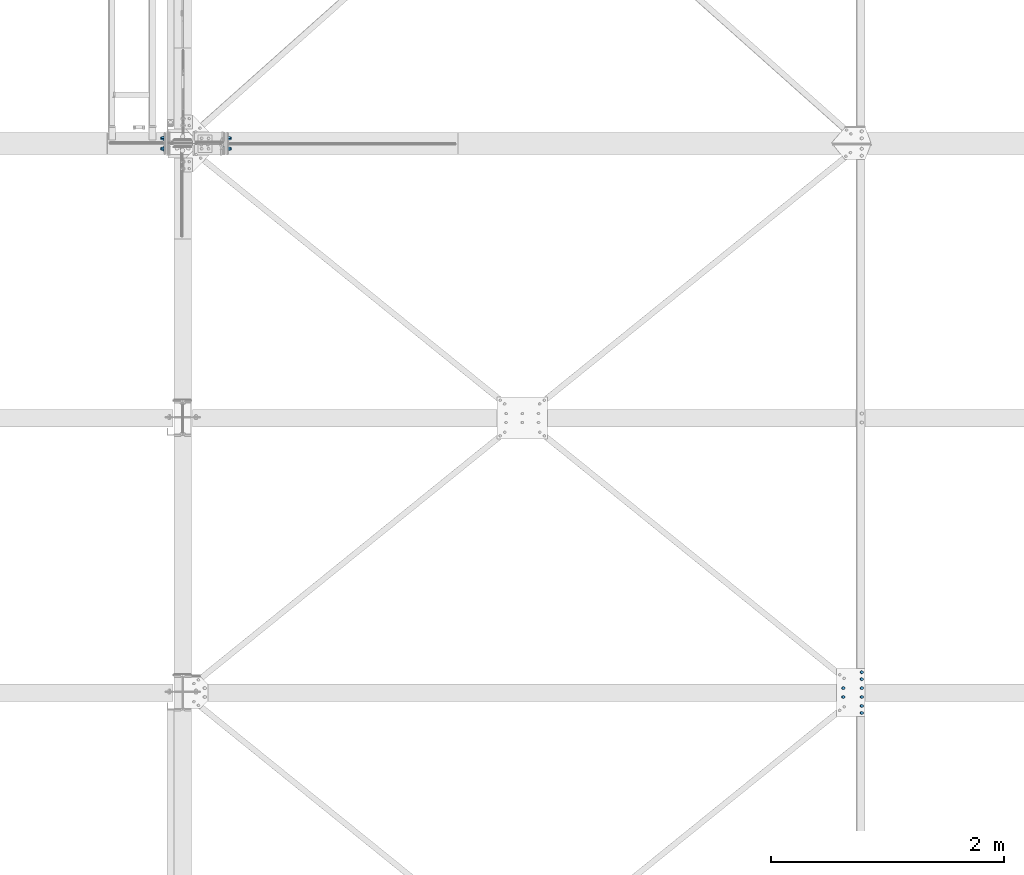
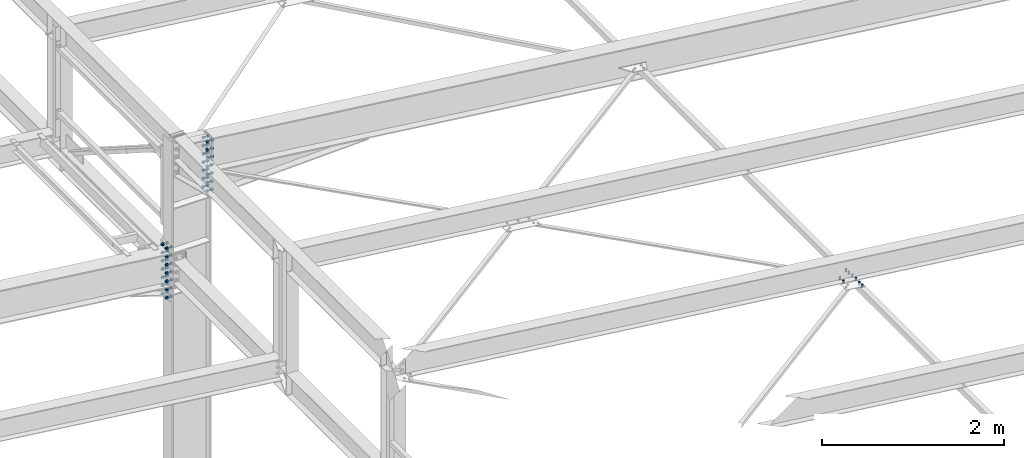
# One storey, part 136 of 3134: 5 mechanical fasteners, 4 elements without a shape of their own.
"""IFC2X3 building model written with IfcOpenShell, lengths in millimetres."""

import ifcopenshell
import ifcopenshell.guid

model = None  # the IFC model being written
_history = None  # IfcOwnerHistory: only IFC2X3 demands one
_inside = {}  # id of a spatial element -> (the spatial element, [elements in it])
_under = {}  # id of a project, library or spatial element -> (it, [spatial elements below it])
_declared = {}  # id of a project -> (the project, [libraries it declares])
_typed = {}  # id of a type object -> (the type object, [elements of that type])
_made_of = {}  # id of a material, layer set ... -> (it, [elements and type objects made of it])


def new_model(schema):
    """Start an empty IFC model of exactly this schema.

    Asked for "IFC4X3", IfcOpenShell would pick the latest addendum, in which some entities
    have other attributes; the version numbers below select the first issue.
    IFC2X3 requires an IfcOwnerHistory on every rooted entity: one is made here for all.
    """
    global model, _history
    if schema == "IFC4X3":
        model = ifcopenshell.file(schema_version=(4, 3, 0, 0))
    else:
        model = ifcopenshell.file(schema=schema)
    _inside.clear()
    _under.clear()
    _declared.clear()
    _typed.clear()
    _made_of.clear()
    _history = None
    if model.schema == "IFC2X3":
        org = make("IfcOrganization", Name="unknown")
        user = make(
            "IfcPersonAndOrganization",
            ThePerson=make("IfcPerson", FamilyName="unknown"),
            TheOrganization=org,
        )
        app = make(
            "IfcApplication",
            ApplicationDeveloper=org,
            Version="unknown",
            ApplicationFullName="unknown",
            ApplicationIdentifier="unknown",
        )
        _history = make(
            "IfcOwnerHistory",
            OwningUser=user,
            OwningApplication=app,
            ChangeAction="ADDED",
            CreationDate=0,
        )
    return model


def make(cls, **values):
    """One entity of the class cls with the attributes given. An attribute that is None is left unset."""
    return model.create_entity(
        cls, **{name: value for name, value in values.items() if value is not None}
    )


def rooted(cls, **values):
    """An entity with a GlobalId (a new one), such as an element, a storey or a relation."""
    return make(cls, GlobalId=ifcopenshell.guid.new(), OwnerHistory=_history, **values)


def si_unit(unit_type, name, prefix=None):
    """IfcSIUnit, for example si_unit("LENGTHUNIT", "METRE", prefix="MILLI")."""
    return make("IfcSIUnit", UnitType=unit_type, Prefix=prefix, Name=name)


def assignment(units):
    """IfcUnitAssignment: the units of a project."""
    return None if units is None else make("IfcUnitAssignment", Units=units)


def point(xyz):
    """IfcCartesianPoint."""
    return None if xyz is None else make("IfcCartesianPoint", Coordinates=xyz)


def direction(xyz):
    """IfcDirection."""
    return None if xyz is None else make("IfcDirection", DirectionRatios=xyz)


def frame(location, z_axis=None, x_axis=None):
    """IfcAxis2Placement3D, a coordinate frame: its origin and axes. An axis left out is left unset."""
    return make(
        "IfcAxis2Placement3D",
        Location=point(location),
        Axis=direction(z_axis),
        RefDirection=direction(x_axis),
    )


def origin_with_axes():
    """The frame at (0, 0, 0) with the z axis (0, 0, 1) and the x axis (1, 0, 0) written out."""
    return frame((0.0, 0.0, 0.0), z_axis=(0.0, 0.0, 1.0), x_axis=(1.0, 0.0, 0.0))


def place(relative_to, where):
    """IfcLocalPlacement: puts the frame where relative to a parent placement (None: the world)."""
    return make(
        "IfcLocalPlacement", PlacementRelTo=relative_to, RelativePlacement=where
    )


def context(
    kind, dimensions, precision=None, world=None, true_north=None, identifier=None
):
    """IfcGeometricRepresentationContext, for example the 3D "Model" context."""
    return make(
        "IfcGeometricRepresentationContext",
        ContextIdentifier=identifier,
        ContextType=kind,
        CoordinateSpaceDimension=dimensions,
        Precision=precision,
        WorldCoordinateSystem=world,
        TrueNorth=true_north,
    )


def subcontext(parent, identifier, kind, view, scale=None):
    """IfcGeometricRepresentationSubContext, for example "Body" below "Model"."""
    return make(
        "IfcGeometricRepresentationSubContext",
        ContextIdentifier=identifier,
        ContextType=kind,
        ParentContext=parent,
        TargetScale=scale,
        TargetView=view,
    )


def project(units=None, contexts=None):
    """IfcProject with its units and contexts."""
    return rooted(
        "IfcProject",
        Name="project",
        RepresentationContexts=contexts,
        UnitsInContext=assignment(units),
    )


def spatial(cls, under=None, at=None, **own):
    """A site, building, storey or space (cls), placed at a placement, below another one or the project."""
    s = rooted(cls, ObjectPlacement=at, **own)
    if under is not None:
        _under.setdefault(under.id(), (under, []))[1].append(s)
    return s


def faces_of(points, faces, orient=None, outer=None):
    """IfcFace entities. A face is a list of loops; a loop is a list of indices into points, from 0.

    orient and outer hold one flag for each loop. By default every Orientation is true, the
    first loop of a face is its IfcFaceOuterBound and the others are IfcFaceBound.
    """
    made = []
    for i, loops in enumerate(faces):
        bounds = []
        for j, loop in enumerate(loops):
            is_outer = j == 0 if outer is None else outer[i][j]
            bounds.append(
                make(
                    "IfcFaceOuterBound" if is_outer else "IfcFaceBound",
                    Bound=make("IfcPolyLoop", Polygon=[points[k] for k in loop]),
                    Orientation=True if orient is None else orient[i][j],
                )
            )
        made.append(make("IfcFace", Bounds=bounds))
    return made


def faceted_brep(points, faces, orient=None, outer=None, voids=None):
    """IfcFacetedBrep: a solid bounded by flat faces; with voids (closed shells), ...WithVoids."""
    shared = [point(p) for p in points]
    hull = make("IfcClosedShell", CfsFaces=faces_of(shared, faces, orient, outer))
    if voids is None:
        return make("IfcFacetedBrep", Outer=hull)
    return make(
        "IfcFacetedBrepWithVoids",
        Outer=hull,
        Voids=[
            make(cls, CfsFaces=faces_of(shared, fs, o, b)) for cls, fs, o, b in voids
        ],
    )


def shape(context_of_items, identifier, shape_type, items):
    """IfcShapeRepresentation: the items that make up one representation, for example the "Body"."""
    return make(
        "IfcShapeRepresentation",
        ContextOfItems=context_of_items,
        RepresentationIdentifier=identifier,
        RepresentationType=shape_type,
        Items=items,
    )


def source(mapping_origin, context_of_items, identifier, shape_type, items):
    """IfcRepresentationMap: a shape defined once, which mapped items show again and again."""
    return make(
        "IfcRepresentationMap",
        MappingOrigin=mapping_origin,
        MappedRepresentation=shape(context_of_items, identifier, shape_type, items),
    )


def transform(
    local_origin,
    x_axis=None,
    y_axis=None,
    z_axis=None,
    scale=None,
    scale2=None,
    scale3=None,
    uniform=True,
):
    """IfcCartesianTransformationOperator3D, or its non-uniform kind. x_axis, y_axis, z_axis: its Axis1, 2, 3."""
    if uniform:
        return make(
            "IfcCartesianTransformationOperator3D",
            Axis1=direction(x_axis),
            Axis2=direction(y_axis),
            LocalOrigin=point(local_origin),
            Scale=scale,
            Axis3=direction(z_axis),
        )
    return make(
        "IfcCartesianTransformationOperator3DnonUniform",
        Axis1=direction(x_axis),
        Axis2=direction(y_axis),
        LocalOrigin=point(local_origin),
        Scale=scale,
        Axis3=direction(z_axis),
        Scale2=scale2,
        Scale3=scale3,
    )


def mapped(mapping_source, mapping_target):
    """IfcMappedItem: shows the shape of a source again, moved by a transform."""
    return make(
        "IfcMappedItem", MappingSource=mapping_source, MappingTarget=mapping_target
    )


def material(Name=None, Category=None):
    """IfcMaterial."""
    return make("IfcMaterial", Name=Name, Category=Category)


def made_of(thing, what):
    """Note that an element or type object is made of a material, layer set ...; save() writes the relation."""
    if what is not None:
        _made_of.setdefault(what.id(), (what, []))[1].append(thing)
    return thing


def type_object(cls, material=None, **own):
    """A type object (cls), such as IfcWallType, which elements share."""
    return made_of(rooted(cls, **own), material)


def element(
    cls,
    number,
    at=None,
    inside=None,
    cuts=None,
    type_object=None,
    material=None,
    context=None,
    identifier="Body",
    shape_type=None,
    held_by="IfcProductDefinitionShape",
    body=None,
    shapes=None,
    **own,
):
    """One element of the class cls, such as IfcWall. Its Tag is "e" and its number.

    at: its placement. inside: the storey or other place that contains it. cuts: it is an
    opening in that element (IfcRelVoidsElement). A single representation is given by context,
    identifier, shape_type and body (its items); several are given by shapes. held_by: the class
    of the entity that holds the representations. save() writes the other relations.
    """
    e = rooted(cls, Tag="e%d" % number, ObjectPlacement=at, **own)
    if body is not None:
        shapes = [shape(context, identifier, shape_type, body)]
    if shapes is not None:
        e.Representation = make(held_by, Representations=shapes)
    if inside is not None:
        _inside.setdefault(inside.id(), (inside, []))[1].append(e)
    if cuts is not None:
        rooted(
            "IfcRelVoidsElement", RelatingBuildingElement=cuts, RelatedOpeningElement=e
        )
    if type_object is not None:
        _typed.setdefault(type_object.id(), (type_object, []))[1].append(e)
    return made_of(e, material)


def aggregate(whole, parts):
    """IfcRelAggregates: a whole, such as a stair, and the parts it consists of."""
    return rooted("IfcRelAggregates", RelatingObject=whole, RelatedObjects=parts)


def save(model, path):
    """Write the relations noted so far, then the file.

    IfcRelAggregates (storeys below a building ...), IfcRelContainedInSpatialStructure (elements
    in a storey), IfcRelDefinesByType, IfcRelAssociatesMaterial and IfcRelDeclares: one each for
    every whole, place, type object, material and project.
    """
    for whole, parts in _under.values():
        aggregate(whole, parts)
    for where, things in _inside.values():
        rooted(
            "IfcRelContainedInSpatialStructure",
            RelatedElements=things,
            RelatingStructure=where,
        )
    for kind, things in _typed.values():
        rooted("IfcRelDefinesByType", RelatedObjects=things, RelatingType=kind)
    for what, things in _made_of.values():
        rooted("IfcRelAssociatesMaterial", RelatedObjects=things, RelatingMaterial=what)
    for by, libraries in _declared.values():
        rooted("IfcRelDeclares", RelatingContext=by, RelatedDefinitions=libraries)
    model.write(path)


model = new_model("IFC2X3")

# Units and contexts
model_context = context("Model", 3, precision=1e-05, world=origin_with_axes())
body_context = subcontext(model_context, "Body", "Model", "MODEL_VIEW")
ifc_project = project(units=[si_unit("LENGTHUNIT", "METRE", prefix="MILLI"), si_unit("AREAUNIT", "SQUARE_METRE"), si_unit("VOLUMEUNIT", "CUBIC_METRE"), si_unit("MASSUNIT", "GRAM", prefix="KILO"), si_unit("TIMEUNIT", "SECOND"), si_unit("PLANEANGLEUNIT", "RADIAN"), si_unit("SOLIDANGLEUNIT", "STERADIAN"), si_unit("THERMODYNAMICTEMPERATUREUNIT", "DEGREE_CELSIUS"), si_unit("LUMINOUSINTENSITYUNIT", "LUMEN")], contexts=[model_context])

# Site, building, storey
site_placement = place(None, origin_with_axes())
site = spatial("IfcSite", under=ifc_project, at=site_placement, CompositionType="ELEMENT")
building_placement = place(site_placement, origin_with_axes())
building = spatial("IfcBuilding", under=site, at=building_placement, Name="Undefined", CompositionType="ELEMENT")
storey_placement = place(building_placement, origin_with_axes())
storey = spatial("IfcBuildingStorey", under=building, at=storey_placement, Name="Undefined", CompositionType="ELEMENT", Elevation=0.0)

# Assembly, mechanical fastener
assembly_1_placement = place(storey_placement, origin_with_axes())
assembly_1 = element("IfcElementAssembly", 1, at=assembly_1_placement, inside=storey, Name="IPE450", AssemblyPlace="NOTDEFINED", PredefinedType="RIGID_FRAME")
ifc_material_1 = material(Name="HR10.9")
mechanical_fastener_type = type_object("IfcMechanicalFastenerType", Name="Bolt assembly")
shared_shape_1 = source(origin_with_axes(), body_context, "Body", "Brep", [
    faceted_brep([(18.475208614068, -33.599999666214, 0.0), (9.23760430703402, -33.599999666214, 16.0), (-9.23760430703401, -33.599999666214, 16.0), (-18.475208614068, -33.599999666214, 2.2625605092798e-15), (-9.23760430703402, -33.599999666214, -16.0), (9.237604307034, -33.599999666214, -16.0), (9.237604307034, -19.7000000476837, -16.0), (-9.23760430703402, -19.7000000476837, -16.0), (-18.475208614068, -19.7000000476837, 2.2625605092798e-15), (-9.23760430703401, -19.7000000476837, 16.0), (9.23760430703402, -19.7000000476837, 16.0), (18.475208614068, -19.7000000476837, 0.0), (10.0, -19.7000000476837, 0.0), (8.66025403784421, -19.7000000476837, 5.0000000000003), (4.9999999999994, -19.7000000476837, 8.66025403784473), (-1.03633598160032e-12, -19.7000000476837, 10.0), (-5.00000000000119, -19.7000000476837, 8.6602540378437), (-8.66025403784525, -19.7000000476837, 4.99999999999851), (-10.0, -19.7000000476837, -2.07267196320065e-12), (-8.66025403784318, -19.7000000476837, -5.00000000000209), (-4.99999999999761, -19.7000000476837, -8.66025403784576), (3.09790571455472e-12, -19.7000000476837, -10.0), (5.00000000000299, -19.7000000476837, -8.66025403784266), (8.66025403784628, -19.7000000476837, -4.99999999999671), (8.66025403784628, 55.2999999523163, -4.99999999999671), (5.00000000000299, 55.2999999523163, -8.66025403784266), (3.09790571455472e-12, 55.2999999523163, -10.0), (-4.99999999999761, 55.2999999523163, -8.66025403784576), (-8.66025403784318, 55.2999999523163, -5.00000000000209), (-10.0, 55.2999999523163, -2.07267196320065e-12), (-8.66025403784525, 55.2999999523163, 4.99999999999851), (-5.00000000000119, 55.2999999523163, 8.6602540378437), (-1.03633598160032e-12, 55.2999999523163, 10.0), (4.9999999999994, 55.2999999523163, 8.66025403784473), (8.66025403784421, 55.2999999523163, 5.0000000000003), (10.0, 55.2999999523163, 0.0), (22.0, -19.7000000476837, 0.0), (19.0525588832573, -19.7000000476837, 11.0000000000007), (10.9999999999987, -19.7000000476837, 19.0525588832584), (-2.27993915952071e-12, -19.7000000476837, 22.0), (-11.0000000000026, -19.7000000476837, 19.0525588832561), (-19.0525588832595, -19.7000000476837, 10.9999999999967), (-22.0, -19.7000000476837, -4.55987831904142e-12), (-19.052558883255, -19.7000000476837, -11.0000000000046), (-10.9999999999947, -19.7000000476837, -19.0525588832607), (6.81539257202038e-12, -19.7000000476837, -22.0), (11.0000000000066, -19.7000000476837, -19.0525588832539), (19.0525588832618, -19.7000000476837, -10.9999999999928), (19.0525588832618, -16.0, -10.9999999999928), (11.0000000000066, -16.0, -19.0525588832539), (6.81539257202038e-12, -16.0, -22.0), (-10.9999999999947, -16.0, -19.0525588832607), (-19.052558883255, -16.0, -11.0000000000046), (-22.0, -16.0, -4.55987831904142e-12), (-19.0525588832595, -16.0, 10.9999999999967), (-11.0000000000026, -16.0, 19.0525588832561), (-2.27993915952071e-12, -16.0, 22.0), (10.9999999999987, -16.0, 19.0525588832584), (19.0525588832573, -16.0, 11.0000000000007), (22.0, -16.0, 0.0), (22.0, 25.0, 0.0), (19.0525588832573, 25.0, 11.0000000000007), (10.9999999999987, 25.0, 19.0525588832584), (-2.27993915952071e-12, 25.0, 22.0), (-11.0000000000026, 25.0, 19.0525588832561), (-19.0525588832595, 25.0, 10.9999999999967), (-22.0, 25.0, -4.55987831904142e-12), (-19.052558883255, 25.0, -11.0000000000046), (-10.9999999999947, 25.0, -19.0525588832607), (6.81539257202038e-12, 25.0, -22.0), (11.0000000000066, 25.0, -19.0525588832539), (19.0525588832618, 25.0, -10.9999999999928), (19.0525588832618, 28.7000000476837, -10.9999999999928), (11.0000000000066, 28.7000000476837, -19.0525588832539), (6.81539257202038e-12, 28.7000000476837, -22.0), (-10.9999999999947, 28.7000000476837, -19.0525588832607), (-19.052558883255, 28.7000000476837, -11.0000000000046), (-22.0, 28.7000000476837, -4.55987831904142e-12), (-19.0525588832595, 28.7000000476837, 10.9999999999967), (-11.0000000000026, 28.7000000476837, 19.0525588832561), (-2.27993915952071e-12, 28.7000000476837, 22.0), (10.9999999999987, 28.7000000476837, 19.0525588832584), (19.0525588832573, 28.7000000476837, 11.0000000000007), (22.0, 28.7000000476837, 0.0), (18.475208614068, 28.7000000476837, 0.0), (9.23760430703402, 28.7000000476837, 16.0), (-9.23760430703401, 28.7000000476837, 16.0), (-18.475208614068, 28.7000000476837, 2.2625605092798e-15), (-9.23760430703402, 28.7000000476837, -16.0), (9.237604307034, 28.7000000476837, -16.0), (9.237604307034, 47.2499992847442, -16.0), (-9.23760430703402, 47.2499992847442, -16.0), (-18.475208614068, 47.2499992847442, 2.2625605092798e-15), (-9.23760430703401, 47.2499992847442, 16.0), (9.23760430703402, 47.2499992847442, 16.0), (18.475208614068, 47.2499992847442, 0.0)], [[[0, 1, 2, 3, 4, 5]], [[6, 7, 8, 9, 10, 11]], [[0, 11, 10, 1]], [[1, 10, 9, 2]], [[2, 9, 8, 3]], [[3, 8, 7, 4]], [[4, 7, 6, 5]], [[5, 6, 11, 0]], [[12, 13, 14, 15, 16, 17, 18, 19, 20, 21, 22, 23]], [[24, 25, 26, 27, 28, 29, 30, 31, 32, 33, 34, 35]], [[12, 35, 34, 13]], [[13, 34, 33, 14]], [[14, 33, 32, 15]], [[15, 32, 31, 16]], [[16, 31, 30, 17]], [[17, 30, 29, 18]], [[18, 29, 28, 19]], [[19, 28, 27, 20]], [[20, 27, 26, 21]], [[21, 26, 25, 22]], [[22, 25, 24, 23]], [[23, 24, 35, 12]], [[36, 37, 38, 39, 40, 41, 42, 43, 44, 45, 46, 47]], [[48, 49, 50, 51, 52, 53, 54, 55, 56, 57, 58, 59]], [[36, 59, 58, 37]], [[37, 58, 57, 38]], [[38, 57, 56, 39]], [[39, 56, 55, 40]], [[40, 55, 54, 41]], [[41, 54, 53, 42]], [[42, 53, 52, 43]], [[43, 52, 51, 44]], [[44, 51, 50, 45]], [[45, 50, 49, 46]], [[46, 49, 48, 47]], [[47, 48, 59, 36]], [[60, 61, 62, 63, 64, 65, 66, 67, 68, 69, 70, 71]], [[72, 73, 74, 75, 76, 77, 78, 79, 80, 81, 82, 83]], [[60, 83, 82, 61]], [[61, 82, 81, 62]], [[62, 81, 80, 63]], [[63, 80, 79, 64]], [[64, 79, 78, 65]], [[65, 78, 77, 66]], [[66, 77, 76, 67]], [[67, 76, 75, 68]], [[68, 75, 74, 69]], [[69, 74, 73, 70]], [[70, 73, 72, 71]], [[71, 72, 83, 60]], [[84, 85, 86, 87, 88, 89]], [[90, 91, 92, 93, 94, 95]], [[84, 95, 94, 85]], [[85, 94, 93, 86]], [[86, 93, 92, 87]], [[87, 92, 91, 88]], [[88, 91, 90, 89]], [[89, 90, 95, 84]]]),
    faceted_brep([(11.0, -15.9, 0.0), (9.52627944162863, -15.9, 5.50000000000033), (5.49999999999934, -15.9, 9.5262794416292), (-1.13996957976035e-12, -15.9, 11.0), (-5.50000000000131, -15.9, 9.52627944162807), (-9.52627944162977, -15.9, 5.49999999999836), (-11.0, -15.9, -2.27993915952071e-12), (-9.5262794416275, -15.9, -5.5000000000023), (-5.49999999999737, -15.9, -9.52627944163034), (3.40769628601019e-12, -15.9, -11.0), (5.50000000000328, -15.9, -9.52627944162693), (9.52627944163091, -15.9, -5.49999999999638), (9.52627944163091, 0.0999999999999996, -5.49999999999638), (5.50000000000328, 0.0999999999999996, -9.52627944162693), (3.40769628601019e-12, 0.0999999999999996, -11.0), (-5.49999999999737, 0.0999999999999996, -9.52627944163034), (-9.5262794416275, 0.0999999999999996, -5.5000000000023), (-11.0, 0.0999999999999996, -2.27993915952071e-12), (-9.52627944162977, 0.0999999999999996, 5.49999999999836), (-5.50000000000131, 0.0999999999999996, 9.52627944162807), (-1.13996957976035e-12, 0.0999999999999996, 11.0), (5.49999999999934, 0.0999999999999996, 9.5262794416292), (9.52627944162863, 0.0999999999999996, 5.50000000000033), (11.0, 0.0999999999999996, 0.0), (11.0, -0.1, 0.0), (9.52627944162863, -0.1, 5.50000000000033), (5.49999999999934, -0.1, 9.5262794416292), (-1.13996957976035e-12, -0.1, 11.0), (-5.50000000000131, -0.1, 9.52627944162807), (-9.52627944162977, -0.1, 5.49999999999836), (-11.0, -0.1, -2.27993915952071e-12), (-9.5262794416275, -0.1, -5.5000000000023), (-5.49999999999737, -0.1, -9.52627944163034), (3.40769628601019e-12, -0.1, -11.0), (5.50000000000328, -0.1, -9.52627944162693), (9.52627944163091, -0.1, -5.49999999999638), (9.52627944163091, 25.0, -5.49999999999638), (5.50000000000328, 25.0, -9.52627944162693), (3.40769628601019e-12, 25.0, -11.0), (-5.49999999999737, 25.0, -9.52627944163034), (-9.5262794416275, 25.0, -5.5000000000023), (-11.0, 25.0, -2.27993915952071e-12), (-9.52627944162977, 25.0, 5.49999999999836), (-5.50000000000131, 25.0, 9.52627944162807), (-1.13996957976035e-12, 25.0, 11.0), (5.49999999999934, 25.0, 9.5262794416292), (9.52627944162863, 25.0, 5.50000000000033), (11.0, 25.0, 0.0)], [[[0, 1, 2, 3, 4, 5, 6, 7, 8, 9, 10, 11]], [[12, 13, 14, 15, 16, 17, 18, 19, 20, 21, 22, 23]], [[0, 23, 22, 1]], [[1, 22, 21, 2]], [[2, 21, 20, 3]], [[3, 20, 19, 4]], [[4, 19, 18, 5]], [[5, 18, 17, 6]], [[6, 17, 16, 7]], [[7, 16, 15, 8]], [[8, 15, 14, 9]], [[9, 14, 13, 10]], [[10, 13, 12, 11]], [[11, 12, 23, 0]], [[24, 25, 26, 27, 28, 29, 30, 31, 32, 33, 34, 35]], [[36, 37, 38, 39, 40, 41, 42, 43, 44, 45, 46, 47]], [[24, 47, 46, 25]], [[25, 46, 45, 26]], [[26, 45, 44, 27]], [[27, 44, 43, 28]], [[28, 43, 42, 29]], [[29, 42, 41, 30]], [[30, 41, 40, 31]], [[31, 40, 39, 32]], [[32, 39, 38, 33]], [[33, 38, 37, 34]], [[34, 37, 36, 35]], [[35, 36, 47, 24]]]),
])
mechanical_fastener_1_placement = place(assembly_1_placement, frame((32890.0, 19450.0, 5711.36541521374), z_axis=(0.0, -1.0, 0.0), x_axis=(0.0, 0.0, -1.0)))
mechanical_fastener_1 = element("IfcMechanicalFastener", 2, at=mechanical_fastener_1_placement, type_object=mechanical_fastener_type, material=ifc_material_1, Name="Bolt assembly", NominalDiameter=20.0, NominalLength=75.0, context=body_context, shape_type="MappedRepresentation", body=[
    mapped(shared_shape_1, transform((0.0, 0.0, -45.0))),
    mapped(shared_shape_1, transform((0.0, 0.0, 45.0))),
    mapped(shared_shape_1, transform((110.0, 0.0, -45.0))),
    mapped(shared_shape_1, transform((110.0, 0.0, 45.0))),
    mapped(shared_shape_1, transform((220.0, 0.0, -45.0))),
    mapped(shared_shape_1, transform((220.0, 0.0, 45.0))),
    mapped(shared_shape_1, transform((330.0, 0.0, -45.0))),
    mapped(shared_shape_1, transform((330.0, 0.0, 45.0))),
    mapped(shared_shape_1, transform((440.0, 0.0, -45.0))),
    mapped(shared_shape_1, transform((440.0, 0.0, 45.0))),
    mapped(shared_shape_1, transform((550.0, 0.0, -45.0))),
    mapped(shared_shape_1, transform((550.0, 0.0, 45.0))),
    mapped(shared_shape_1, transform((660.0, 0.0, -45.0))),
    mapped(shared_shape_1, transform((660.0, 0.0, 45.0))),
])
aggregate(assembly_1, [mechanical_fastener_1])

assembly_2_placement = place(storey_placement, origin_with_axes())
assembly_2 = element("IfcElementAssembly", 3, at=assembly_2_placement, inside=storey, Name="IPE450", AssemblyPlace="NOTDEFINED", PredefinedType="RIGID_FRAME")
mechanical_fastener_2_placement = place(assembly_2_placement, frame((32390.0, 19450.0, 4461.54211857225), z_axis=(0.0, 1.0, 0.0), x_axis=(0.0, 0.0, -1.0)))
mechanical_fastener_2 = element("IfcMechanicalFastener", 4, at=mechanical_fastener_2_placement, type_object=mechanical_fastener_type, material=ifc_material_1, Name="Bolt assembly", NominalDiameter=20.0, NominalLength=75.0, context=body_context, shape_type="MappedRepresentation", body=[
    mapped(shared_shape_1, transform((0.0, 0.0, -45.0))),
    mapped(shared_shape_1, transform((0.0, 0.0, 45.0))),
    mapped(shared_shape_1, transform((110.0, 0.0, -45.0))),
    mapped(shared_shape_1, transform((110.0, 0.0, 45.0))),
    mapped(shared_shape_1, transform((220.0, 0.0, -45.0))),
    mapped(shared_shape_1, transform((220.0, 0.0, 45.0))),
    mapped(shared_shape_1, transform((330.0, 0.0, -45.0))),
    mapped(shared_shape_1, transform((330.0, 0.0, 45.0))),
    mapped(shared_shape_1, transform((440.0, 0.0, -45.0))),
    mapped(shared_shape_1, transform((440.0, 0.0, 45.0))),
    mapped(shared_shape_1, transform((550.0, 0.0, -45.0))),
    mapped(shared_shape_1, transform((550.0, 0.0, 45.0))),
    mapped(shared_shape_1, transform((660.0, 0.0, -45.0))),
    mapped(shared_shape_1, transform((660.0, 0.0, 45.0))),
])
aggregate(assembly_2, [mechanical_fastener_2])

assembly_3_placement = place(storey_placement, origin_with_axes())
assembly_3 = element("IfcElementAssembly", 5, at=assembly_3_placement, inside=storey, Name="300", AssemblyPlace="NOTDEFINED", PredefinedType="RIGID_FRAME")
ifc_material_2 = material(Name="8.8")
shared_shape_2 = source(origin_with_axes(), body_context, "Body", "Brep", [
    faceted_brep([(13.856406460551, -19.199990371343, 0.0), (6.92820323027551, -19.199990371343, 12.0), (-6.92820323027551, -19.199990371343, 12.0), (-13.856406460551, -19.199990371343, 1.69692038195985e-15), (-6.92820323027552, -19.199990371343, -12.0), (6.9282032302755, -19.199990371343, -12.0), (6.9282032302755, -9.19999037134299, -12.0), (-6.92820323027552, -9.19999037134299, -12.0), (-13.856406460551, -9.19999037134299, 1.69692038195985e-15), (-6.92820323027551, -9.19999037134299, 12.0), (6.92820323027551, -9.19999037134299, 12.0), (13.856406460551, -9.19999037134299, 0.0), (8.0, -9.19999037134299, 0.0), (6.92820323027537, -9.19999037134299, 4.00000000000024), (3.99999999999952, -9.19999037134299, 6.92820323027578), (-8.29068785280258e-13, -9.19999037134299, 8.0), (-4.00000000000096, -9.19999037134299, 6.92820323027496), (-6.9282032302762, -9.19999037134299, 3.99999999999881), (-8.0, -9.19999037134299, -1.65813757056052e-12), (-6.92820323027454, -9.19999037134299, -4.00000000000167), (-3.99999999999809, -9.19999037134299, -6.92820323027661), (2.47832457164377e-12, -9.19999037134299, -8.0), (4.00000000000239, -9.19999037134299, -6.92820323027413), (6.92820323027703, -9.19999037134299, -3.99999999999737), (6.92820323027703, 25.800009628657, -3.99999999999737), (4.00000000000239, 25.800009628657, -6.92820323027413), (2.47832457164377e-12, 25.800009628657, -8.0), (-3.99999999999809, 25.800009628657, -6.92820323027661), (-6.92820323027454, 25.800009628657, -4.00000000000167), (-8.0, 25.800009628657, -1.65813757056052e-12), (-6.9282032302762, 25.800009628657, 3.99999999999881), (-4.00000000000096, 25.800009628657, 6.92820323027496), (-8.29068785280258e-13, 25.800009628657, 8.0), (3.99999999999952, 25.800009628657, 6.92820323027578), (6.92820323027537, 25.800009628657, 4.00000000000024), (8.0, 25.800009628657, 0.0), (13.856406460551, 8.00000637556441, 0.0), (6.92820323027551, 8.00000637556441, 12.0), (-6.92820323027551, 8.00000637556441, 12.0), (-13.856406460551, 8.00000637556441, 1.69692038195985e-15), (-6.92820323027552, 8.00000637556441, -12.0), (6.9282032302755, 8.00000637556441, -12.0), (6.9282032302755, 21.0000063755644, -12.0), (-6.92820323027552, 21.0000063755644, -12.0), (-13.856406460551, 21.0000063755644, 1.69692038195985e-15), (-6.92820323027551, 21.0000063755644, 12.0), (6.92820323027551, 21.0000063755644, 12.0), (13.856406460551, 21.0000063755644, 0.0)], [[[0, 1, 2, 3, 4, 5]], [[6, 7, 8, 9, 10, 11]], [[0, 11, 10, 1]], [[1, 10, 9, 2]], [[2, 9, 8, 3]], [[3, 8, 7, 4]], [[4, 7, 6, 5]], [[5, 6, 11, 0]], [[12, 13, 14, 15, 16, 17, 18, 19, 20, 21, 22, 23]], [[24, 25, 26, 27, 28, 29, 30, 31, 32, 33, 34, 35]], [[12, 35, 34, 13]], [[13, 34, 33, 14]], [[14, 33, 32, 15]], [[15, 32, 31, 16]], [[16, 31, 30, 17]], [[17, 30, 29, 18]], [[18, 29, 28, 19]], [[19, 28, 27, 20]], [[20, 27, 26, 21]], [[21, 26, 25, 22]], [[22, 25, 24, 23]], [[23, 24, 35, 12]], [[36, 37, 38, 39, 40, 41]], [[42, 43, 44, 45, 46, 47]], [[36, 47, 46, 37]], [[37, 46, 45, 38]], [[38, 45, 44, 39]], [[39, 44, 43, 40]], [[40, 43, 42, 41]], [[41, 42, 47, 36]]]),
    faceted_brep([(9.0, -0.1, 0.0), (7.79422863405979, -0.1, 4.50000000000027), (4.49999999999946, -0.1, 7.79422863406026), (-9.3270238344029e-13, -0.1, 9.0), (-4.50000000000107, -0.1, 7.79422863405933), (-7.79422863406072, -0.1, 4.49999999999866), (-9.0, -0.1, -1.86540476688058e-12), (-7.79422863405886, -0.1, -4.50000000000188), (-4.49999999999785, -0.1, -7.79422863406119), (2.78811514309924e-12, -0.1, -9.0), (4.50000000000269, -0.1, -7.7942286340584), (7.79422863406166, -0.1, -4.49999999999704), (7.79422863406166, 8.00000000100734, -4.49999999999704), (4.50000000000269, 8.00000000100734, -7.7942286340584), (2.78811514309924e-12, 8.00000000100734, -9.0), (-4.49999999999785, 8.00000000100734, -7.79422863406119), (-7.79422863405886, 8.00000000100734, -4.50000000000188), (-9.0, 8.00000000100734, -1.86540476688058e-12), (-7.79422863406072, 8.00000000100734, 4.49999999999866), (-4.50000000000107, 8.00000000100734, 7.79422863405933), (-9.3270238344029e-13, 8.00000000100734, 9.0), (4.49999999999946, 8.00000000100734, 7.79422863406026), (7.79422863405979, 8.00000000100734, 4.50000000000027), (9.0, 8.00000000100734, 0.0), (9.0, -9.09999037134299, 0.0), (7.79422863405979, -9.09999037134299, 4.50000000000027), (4.49999999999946, -9.09999037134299, 7.79422863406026), (-9.3270238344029e-13, -9.09999037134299, 9.0), (-4.50000000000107, -9.09999037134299, 7.79422863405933), (-7.79422863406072, -9.09999037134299, 4.49999999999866), (-9.0, -9.09999037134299, -1.86540476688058e-12), (-7.79422863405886, -9.09999037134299, -4.50000000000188), (-4.49999999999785, -9.09999037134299, -7.79422863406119), (2.78811514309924e-12, -9.09999037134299, -9.0), (4.50000000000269, -9.09999037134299, -7.7942286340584), (7.79422863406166, -9.09999037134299, -4.49999999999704), (7.79422863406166, 0.100000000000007, -4.49999999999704), (4.50000000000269, 0.100000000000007, -7.7942286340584), (2.78811514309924e-12, 0.100000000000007, -9.0), (-4.49999999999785, 0.100000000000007, -7.79422863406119), (-7.79422863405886, 0.100000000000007, -4.50000000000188), (-9.0, 0.100000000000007, -1.86540476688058e-12), (-7.79422863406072, 0.100000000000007, 4.49999999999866), (-4.50000000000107, 0.100000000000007, 7.79422863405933), (-9.3270238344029e-13, 0.100000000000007, 9.0), (4.49999999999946, 0.100000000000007, 7.79422863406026), (7.79422863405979, 0.100000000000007, 4.50000000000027), (9.0, 0.100000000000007, 0.0)], [[[0, 1, 2, 3, 4, 5, 6, 7, 8, 9, 10, 11]], [[12, 13, 14, 15, 16, 17, 18, 19, 20, 21, 22, 23]], [[0, 23, 22, 1]], [[1, 22, 21, 2]], [[2, 21, 20, 3]], [[3, 20, 19, 4]], [[4, 19, 18, 5]], [[5, 18, 17, 6]], [[6, 17, 16, 7]], [[7, 16, 15, 8]], [[8, 15, 14, 9]], [[9, 14, 13, 10]], [[10, 13, 12, 11]], [[11, 12, 23, 0]], [[24, 25, 26, 27, 28, 29, 30, 31, 32, 33, 34, 35]], [[36, 37, 38, 39, 40, 41, 42, 43, 44, 45, 46, 47]], [[24, 47, 46, 25]], [[25, 46, 45, 26]], [[26, 45, 44, 27]], [[27, 44, 43, 28]], [[28, 43, 42, 29]], [[29, 42, 41, 30]], [[30, 41, 40, 31]], [[31, 40, 39, 32]], [[32, 39, 38, 33]], [[33, 38, 37, 34]], [[34, 37, 36, 35]], [[35, 36, 47, 24]]]),
])
mechanical_fastener_3_placement = place(assembly_3_placement, frame((38283.5751064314, 14692.0, 4816.43281405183), z_axis=(-0.992623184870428, 0.0, 0.121240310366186), x_axis=(0.0, 1.0, 0.0)))
mechanical_fastener_3 = element("IfcMechanicalFastener", 6, at=mechanical_fastener_3_placement, type_object=mechanical_fastener_type, material=ifc_material_2, Name="Bolt assembly", NominalDiameter=16.0, NominalLength=35.0, context=body_context, shape_type="MappedRepresentation", body=[
    mapped(shared_shape_2, transform((0.0, -5.32963895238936e-10, -79.9999999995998))),
    mapped(shared_shape_2, transform((76.0, -5.32963895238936e-10, -79.9999999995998))),
    mapped(shared_shape_2, transform((0.0, 5.3114490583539e-10, 79.9999999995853))),
    mapped(shared_shape_2, transform((76.0, 5.3114490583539e-10, 79.9999999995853))),
])
aggregate(assembly_3, [mechanical_fastener_3])

# Assembly, mechanical fasteners
assembly_4_placement = place(storey_placement, origin_with_axes())
assembly_4 = element("IfcElementAssembly", 7, at=assembly_4_placement, inside=storey, Name="PL8", AssemblyPlace="NOTDEFINED", PredefinedType="RIGID_FRAME")
shared_shape_3 = source(origin_with_axes(), body_context, "Body", "Brep", [
    faceted_brep([(13.856406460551, -10.0, 0.0), (6.92820323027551, -10.0, 12.0), (-6.92820323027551, -10.0, 12.0), (-13.856406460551, -10.0, 1.69692038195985e-15), (-6.92820323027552, -10.0, -12.0), (6.9282032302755, -10.0, -12.0), (6.9282032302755, 0.0, -12.0), (-6.92820323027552, 0.0, -12.0), (-13.856406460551, 0.0, 1.69692038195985e-15), (-6.92820323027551, 0.0, 12.0), (6.92820323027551, 0.0, 12.0), (13.856406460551, 0.0, 0.0), (8.0, 0.0, 0.0), (6.92820323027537, 0.0, 4.00000000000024), (3.99999999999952, 0.0, 6.92820323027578), (-8.29068785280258e-13, 0.0, 8.0), (-4.00000000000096, 0.0, 6.92820323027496), (-6.9282032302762, 0.0, 3.99999999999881), (-8.0, 0.0, -1.65813757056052e-12), (-6.92820323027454, 0.0, -4.00000000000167), (-3.99999999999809, 0.0, -6.92820323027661), (2.47832457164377e-12, 0.0, -8.0), (4.00000000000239, 0.0, -6.92820323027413), (6.92820323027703, 0.0, -3.99999999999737), (6.92820323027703, 35.0000000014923, -3.99999999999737), (4.00000000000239, 35.0000000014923, -6.92820323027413), (2.47832457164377e-12, 35.0000000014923, -8.0), (-3.99999999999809, 35.0000000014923, -6.92820323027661), (-6.92820323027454, 35.0000000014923, -4.00000000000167), (-8.0, 35.0000000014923, -1.65813757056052e-12), (-6.9282032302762, 35.0000000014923, 3.99999999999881), (-4.00000000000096, 35.0000000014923, 6.92820323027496), (-8.29068785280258e-13, 35.0000000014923, 8.0), (3.99999999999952, 35.0000000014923, 6.92820323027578), (6.92820323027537, 35.0000000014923, 4.00000000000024), (8.0, 35.0000000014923, 0.0), (13.856406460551, 14.9999995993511, 0.0), (6.92820323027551, 14.9999995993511, 12.0), (-6.92820323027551, 14.9999995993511, 12.0), (-13.856406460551, 14.9999995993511, 1.69692038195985e-15), (-6.92820323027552, 14.9999995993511, -12.0), (6.9282032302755, 14.9999995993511, -12.0), (6.9282032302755, 27.9999995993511, -12.0), (-6.92820323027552, 27.9999995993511, -12.0), (-13.856406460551, 27.9999995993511, 1.69692038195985e-15), (-6.92820323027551, 27.9999995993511, 12.0), (6.92820323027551, 27.9999995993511, 12.0), (13.856406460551, 27.9999995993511, 0.0)], [[[0, 1, 2, 3, 4, 5]], [[6, 7, 8, 9, 10, 11]], [[0, 11, 10, 1]], [[1, 10, 9, 2]], [[2, 9, 8, 3]], [[3, 8, 7, 4]], [[4, 7, 6, 5]], [[5, 6, 11, 0]], [[12, 13, 14, 15, 16, 17, 18, 19, 20, 21, 22, 23]], [[24, 25, 26, 27, 28, 29, 30, 31, 32, 33, 34, 35]], [[12, 35, 34, 13]], [[13, 34, 33, 14]], [[14, 33, 32, 15]], [[15, 32, 31, 16]], [[16, 31, 30, 17]], [[17, 30, 29, 18]], [[18, 29, 28, 19]], [[19, 28, 27, 20]], [[20, 27, 26, 21]], [[21, 26, 25, 22]], [[22, 25, 24, 23]], [[23, 24, 35, 12]], [[36, 37, 38, 39, 40, 41]], [[42, 43, 44, 45, 46, 47]], [[36, 47, 46, 37]], [[37, 46, 45, 38]], [[38, 45, 44, 39]], [[39, 44, 43, 40]], [[40, 43, 42, 41]], [[41, 42, 47, 36]]]),
    faceted_brep([(9.0, 7.9, 0.0), (7.79422863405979, 7.9, 4.50000000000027), (4.49999999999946, 7.9, 7.79422863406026), (-9.3270238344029e-13, 7.9, 9.0), (-4.50000000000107, 7.9, 7.79422863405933), (-7.79422863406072, 7.9, 4.49999999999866), (-9.0, 7.9, -1.86540476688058e-12), (-7.79422863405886, 7.9, -4.50000000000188), (-4.49999999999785, 7.9, -7.79422863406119), (2.78811514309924e-12, 7.9, -9.0), (4.50000000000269, 7.9, -7.7942286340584), (7.79422863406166, 7.9, -4.49999999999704), (7.79422863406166, 14.9999995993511, -4.49999999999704), (4.50000000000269, 14.9999995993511, -7.7942286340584), (2.78811514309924e-12, 14.9999995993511, -9.0), (-4.49999999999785, 14.9999995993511, -7.79422863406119), (-7.79422863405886, 14.9999995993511, -4.50000000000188), (-9.0, 14.9999995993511, -1.86540476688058e-12), (-7.79422863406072, 14.9999995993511, 4.49999999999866), (-4.50000000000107, 14.9999995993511, 7.79422863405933), (-9.3270238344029e-13, 14.9999995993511, 9.0), (4.49999999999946, 14.9999995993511, 7.79422863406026), (7.79422863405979, 14.9999995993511, 4.50000000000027), (9.0, 14.9999995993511, 0.0), (9.0, 0.100000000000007, 0.0), (7.79422863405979, 0.100000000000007, 4.50000000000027), (4.49999999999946, 0.100000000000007, 7.79422863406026), (-9.3270238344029e-13, 0.100000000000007, 9.0), (-4.50000000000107, 0.100000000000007, 7.79422863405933), (-7.79422863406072, 0.100000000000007, 4.49999999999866), (-9.0, 0.100000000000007, -1.86540476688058e-12), (-7.79422863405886, 0.100000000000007, -4.50000000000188), (-4.49999999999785, 0.100000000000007, -7.79422863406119), (2.78811514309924e-12, 0.100000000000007, -9.0), (4.50000000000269, 0.100000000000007, -7.7942286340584), (7.79422863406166, 0.100000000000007, -4.49999999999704), (7.79422863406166, 8.1, -4.49999999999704), (4.50000000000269, 8.1, -7.7942286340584), (2.78811514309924e-12, 8.1, -9.0), (-4.49999999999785, 8.1, -7.79422863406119), (-7.79422863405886, 8.1, -4.50000000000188), (-9.0, 8.1, -1.86540476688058e-12), (-7.79422863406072, 8.1, 4.49999999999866), (-4.50000000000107, 8.1, 7.79422863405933), (-9.3270238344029e-13, 8.1, 9.0), (4.49999999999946, 8.1, 7.79422863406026), (7.79422863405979, 8.1, 4.50000000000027), (9.0, 8.1, 0.0)], [[[0, 1, 2, 3, 4, 5, 6, 7, 8, 9, 10, 11]], [[12, 13, 14, 15, 16, 17, 18, 19, 20, 21, 22, 23]], [[0, 23, 22, 1]], [[1, 22, 21, 2]], [[2, 21, 20, 3]], [[3, 20, 19, 4]], [[4, 19, 18, 5]], [[5, 18, 17, 6]], [[6, 17, 16, 7]], [[7, 16, 15, 8]], [[8, 15, 14, 9]], [[9, 14, 13, 10]], [[10, 13, 12, 11]], [[11, 12, 23, 0]], [[24, 25, 26, 27, 28, 29, 30, 31, 32, 33, 34, 35]], [[36, 37, 38, 39, 40, 41, 42, 43, 44, 45, 46, 47]], [[24, 47, 46, 25]], [[25, 46, 45, 26]], [[26, 45, 44, 27]], [[27, 44, 43, 28]], [[28, 43, 42, 29]], [[29, 42, 41, 30]], [[30, 41, 40, 31]], [[31, 40, 39, 32]], [[32, 39, 38, 33]], [[33, 38, 37, 34]], [[34, 37, 36, 35]], [[35, 36, 47, 24]]]),
])
mechanical_fastener_4_placement = place(assembly_4_placement, frame((38362.9849612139, 14905.0, 4806.73358922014), z_axis=(0.992623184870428, 0.0, -0.121240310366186), x_axis=(0.0, -1.0, 0.0)))
mechanical_fastener_4 = element("IfcMechanicalFastener", 8, at=mechanical_fastener_4_placement, type_object=mechanical_fastener_type, material=ifc_material_2, Name="Bolt assembly", NominalDiameter=16.0, NominalLength=35.0, context=body_context, shape_type="MappedRepresentation", body=[
    mapped(shared_shape_3, transform((0.0, 0.0, 0.0))),
    mapped(shared_shape_3, transform((59.9999999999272, 0.0, 5.40239852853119e-10))),
])
mechanical_fastener_5_placement = place(assembly_4_placement, frame((38362.9849612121, 14615.0, 4806.73358922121), z_axis=(0.992623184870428, 0.0, -0.121240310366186), x_axis=(0.0, -1.0, 0.0)))
mechanical_fastener_5 = element("IfcMechanicalFastener", 9, at=mechanical_fastener_5_placement, type_object=mechanical_fastener_type, material=ifc_material_2, Name="Bolt assembly", NominalDiameter=16.0, NominalLength=35.0, context=body_context, shape_type="MappedRepresentation", body=[
    mapped(shared_shape_3, transform((0.0, 0.0, 0.0))),
    mapped(shared_shape_3, transform((59.9999999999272, 0.0, 5.40239852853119e-10))),
])
aggregate(assembly_4, [mechanical_fastener_4, mechanical_fastener_5])

save(model, "model.ifc")
